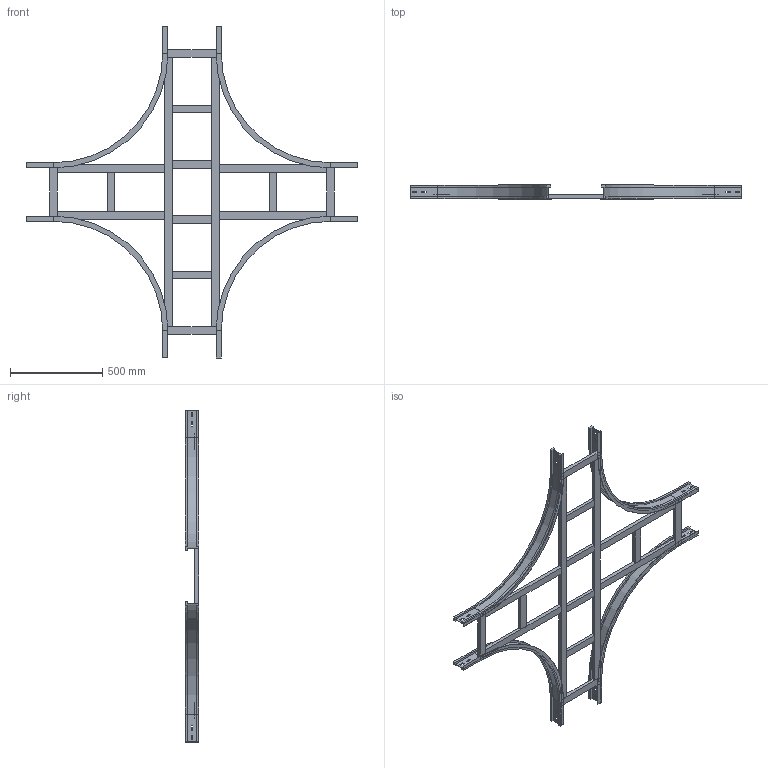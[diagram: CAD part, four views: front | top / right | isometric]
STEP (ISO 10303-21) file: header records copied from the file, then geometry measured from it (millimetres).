
FILE_DESCRIPTION (( 'STEP AP214' ), '1' );
FILE_NAME ('17S6C300.step', '2025-02-21T16:19:01', ( '' ), ( '' ), 'SwSTEP 2.0', 'SolidWorks 2023', '' );
FILE_SCHEMA (( 'AUTOMOTIVE_DESIGN' ));
Length unit declared in the file: millimetre
Products named in the file (7): TRAVERSINO_VERT_R600; TRAVERSINO_300; LONGH.INTERNO 90°_H75_R600; TRAVERSINO_INTERMEDIO_X_R600+300; TRAVERSINO_LONG._R600+300; 17S6C300; TRAVERSINO_COPPIA_300
Assembly tree (20 placements, depth 2):
  17S6C300
    LONGH.INTERNO 90°_H75_R600  x4
    TRAVERSINO_300  x4
    TRAVERSINO_LONG._R600+300  x2
    TRAVERSINO_INTERMEDIO_X_R600+300  x4
    TRAVERSINO_VERT_R600  x4
    TRAVERSINO_COPPIA_300  x2
Bounding box: 1800 x 75 x 1800 mm (x, y, z)
Volume: 8705603.5 mm3; surface area: 2189629.8 mm2
Topology: 20 solids, 20 shells, 312 faces, 720 edges, 448 vertices
Faces by surface type: plane 288, cylinder 24
Entity records: 2644 total; most frequent: CARTESIAN_POINT 419, DIRECTION 418, ORIENTED_EDGE 384, EDGE_CURVE 192, LINE 180, VECTOR 180, VERTEX_POINT 120, AXIS2_PLACEMENT_3D 119
